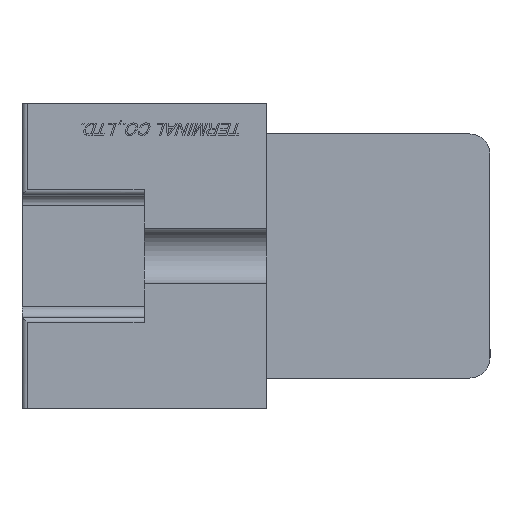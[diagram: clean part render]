
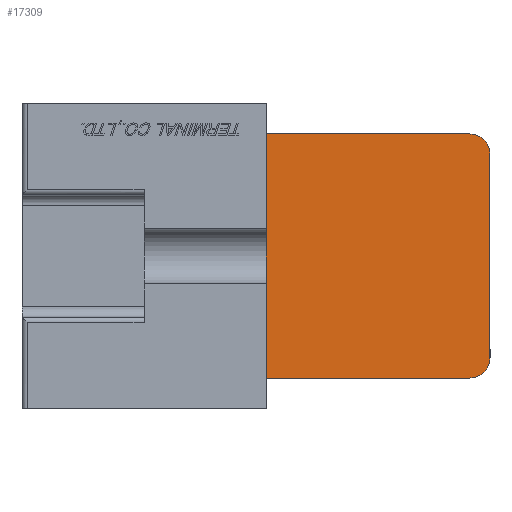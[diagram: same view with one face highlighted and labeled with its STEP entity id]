
A CAD part, left-side view. The second image highlights one B-rep face of the part: STEP entity #17309.
In plain terms, the highlighted planar face has unit normal (-1, 0, 0).
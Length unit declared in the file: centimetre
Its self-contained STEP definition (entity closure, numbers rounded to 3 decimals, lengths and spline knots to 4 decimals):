
#405=CIRCLE('',#32440,0.2);
#407=CIRCLE('',#32444,0.2);
#2104=VERTEX_POINT('',#24487);
#2105=VERTEX_POINT('',#24489);
#2116=VERTEX_POINT('',#24580);
#2117=VERTEX_POINT('',#24584);
#2162=VERTEX_POINT('',#24819);
#2163=VERTEX_POINT('',#24821);
#4024=VECTOR('',#19323,1.);
#4068=VECTOR('',#19464,1.);
#4069=VECTOR('',#19465,1.);
#4070=VECTOR('',#19466,1.);
#5365=LINE('',#24579,#4024);
#5409=LINE('',#24818,#4068);
#5410=LINE('',#24820,#4069);
#5411=LINE('',#24822,#4070);
#6807=EDGE_CURVE('',#2104,#2105,#405,.T.);
#6820=EDGE_CURVE('',#2116,#2105,#5365,.T.);
#6822=EDGE_CURVE('',#2116,#2117,#407,.T.);
#6898=EDGE_CURVE('',#2162,#2104,#5409,.T.);
#6899=EDGE_CURVE('',#2163,#2162,#5410,.T.);
#6900=EDGE_CURVE('',#2163,#2117,#5411,.T.);
#10169=ORIENTED_EDGE('',*,*,#6807,.F.);
#10170=ORIENTED_EDGE('',*,*,#6898,.F.);
#10171=ORIENTED_EDGE('',*,*,#6899,.F.);
#10172=ORIENTED_EDGE('',*,*,#6900,.T.);
#10173=ORIENTED_EDGE('',*,*,#6822,.F.);
#10174=ORIENTED_EDGE('',*,*,#6820,.T.);
#14639=EDGE_LOOP('',(#10169,#10170,#10171,#10172,#10173,#10174));
#15986=FACE_BOUND('',#14639,.T.);
#17309=ADVANCED_FACE('',(#15986),#18337,.T.);
#18337=PLANE('',#32499);
#19310=DIRECTION('',(1.,0.,0.));
#19311=DIRECTION('',(0.,-0.141,0.141));
#19323=DIRECTION('',(0.,0.,1.));
#19327=DIRECTION('',(1.,0.,0.));
#19328=DIRECTION('',(0.,-0.141,-0.141));
#19463=DIRECTION('',(-1.,0.,0.));
#19464=DIRECTION('',(0.,-1.,0.));
#19465=DIRECTION('',(0.,0.,1.));
#19466=DIRECTION('',(0.,-1.,0.));
#24487=CARTESIAN_POINT('',(-4.15,-0.695,1.2));
#24488=CARTESIAN_POINT('',(-4.15,-0.695,1.));
#24489=CARTESIAN_POINT('',(-4.15,-0.895,1.));
#24579=CARTESIAN_POINT('',(-4.15,-0.895,-1.2));
#24580=CARTESIAN_POINT('',(-4.15,-0.895,-1.));
#24583=CARTESIAN_POINT('',(-4.15,-0.695,-1.));
#24584=CARTESIAN_POINT('',(-4.15,-0.695,-1.2));
#24817=CARTESIAN_POINT('',(-4.15,1.305,0.));
#24818=CARTESIAN_POINT('',(-4.15,1.305,1.2));
#24819=CARTESIAN_POINT('',(-4.15,1.305,1.2));
#24820=CARTESIAN_POINT('',(-4.15,1.305,0.));
#24821=CARTESIAN_POINT('',(-4.15,1.305,-1.2));
#24822=CARTESIAN_POINT('',(-4.15,1.305,-1.2));
#32440=AXIS2_PLACEMENT_3D('',#24488,#19310,#19311);
#32444=AXIS2_PLACEMENT_3D('',#24583,#19327,#19328);
#32499=AXIS2_PLACEMENT_3D('',#24817,#19463,$);
